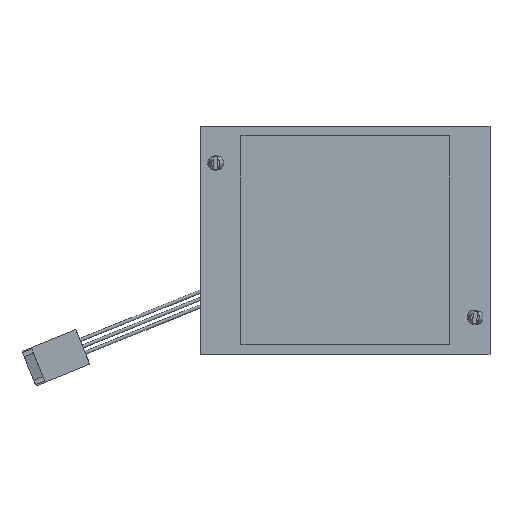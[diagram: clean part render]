
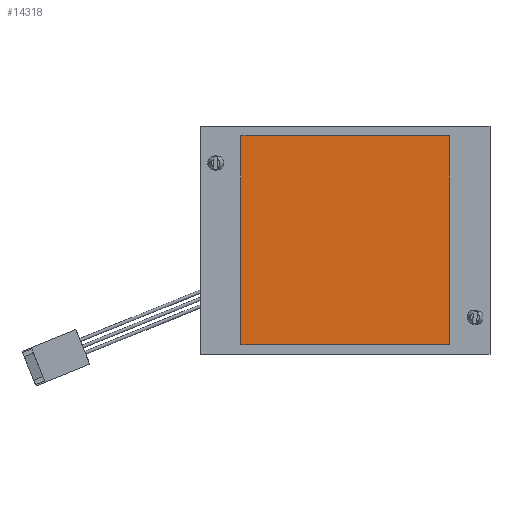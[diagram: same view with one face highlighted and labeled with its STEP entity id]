
A CAD part, front view. The second image highlights one B-rep face of the part: STEP entity #14318.
In plain terms, the highlighted planar face has unit normal (0, -1, 0).
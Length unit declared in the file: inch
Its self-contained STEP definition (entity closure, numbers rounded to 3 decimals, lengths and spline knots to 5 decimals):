
#4821 = LINE ( 'NONE', #5419, #5708 ) ;
#5182 = FACE_OUTER_BOUND ( 'NONE', #49362, .T. ) ;
#5419 = CARTESIAN_POINT ( 'NONE',  ( -0.89998, -0.00512, 0.89992 ) ) ;
#5708 = VECTOR ( 'NONE', #9519, 39.37008 ) ;
#8319 = CARTESIAN_POINT ( 'NONE',  ( 0.90002, -0.00512, -0.90008 ) ) ;
#8799 = DIRECTION ( 'NONE',  ( -1., 0., 0. ) ) ;
#9519 = DIRECTION ( 'NONE',  ( 0., 0., 1. ) ) ;
#10815 = PLANE ( 'NONE',  #55708 ) ;
#11358 = VECTOR ( 'NONE', #44211, 39.37008 ) ;
#12111 = EDGE_CURVE ( 'NONE', #20221, #32941, #4821, .T. ) ;
#12402 = ORIENTED_EDGE ( 'NONE', *, *, #12111, .F. ) ;
#14023 = CARTESIAN_POINT ( 'NONE',  ( 0.90002, -0.00512, -0.90008 ) ) ;
#14318 = ADVANCED_FACE ( 'NONE', ( #5182 ), #10815, .F. ) ;
#15786 = DIRECTION ( 'NONE',  ( 0., 0., 1. ) ) ;
#18739 = CARTESIAN_POINT ( 'NONE',  ( -0.89998, -0.00512, -0.90008 ) ) ;
#20221 = VERTEX_POINT ( 'NONE', #18739 ) ;
#21793 = ORIENTED_EDGE ( 'NONE', *, *, #60213, .F. ) ;
#25116 = DIRECTION ( 'NONE',  ( 0., 1., 0. ) ) ;
#27553 = CARTESIAN_POINT ( 'NONE',  ( 0.90002, -0.00512, 0.89992 ) ) ;
#28481 = EDGE_CURVE ( 'NONE', #36476, #20221, #51600, .T. ) ;
#28889 = CARTESIAN_POINT ( 'NONE',  ( 0.00002, -0.00512, -0.00008 ) ) ;
#29535 = VERTEX_POINT ( 'NONE', #57848 ) ;
#29617 = ORIENTED_EDGE ( 'NONE', *, *, #28481, .F. ) ;
#31642 = LINE ( 'NONE', #27553, #60684 ) ;
#32941 = VERTEX_POINT ( 'NONE', #53794 ) ;
#36476 = VERTEX_POINT ( 'NONE', #8319 ) ;
#37279 = DIRECTION ( 'NONE',  ( 0., 0., -1. ) ) ;
#38244 = CARTESIAN_POINT ( 'NONE',  ( 0.90002, -0.00512, 0.89992 ) ) ;
#44211 = DIRECTION ( 'NONE',  ( 1., 0., 0. ) ) ;
#44559 = VECTOR ( 'NONE', #8799, 39.37008 ) ;
#49362 = EDGE_LOOP ( 'NONE', ( #12402, #29617, #21793, #52806 ) ) ;
#51600 = LINE ( 'NONE', #14023, #44559 ) ;
#52806 = ORIENTED_EDGE ( 'NONE', *, *, #56041, .F. ) ;
#53794 = CARTESIAN_POINT ( 'NONE',  ( -0.89998, -0.00512, 0.89992 ) ) ;
#55708 = AXIS2_PLACEMENT_3D ( 'NONE', #28889, #25116, #15786 ) ;
#55786 = LINE ( 'NONE', #38244, #11358 ) ;
#56041 = EDGE_CURVE ( 'NONE', #32941, #29535, #55786, .T. ) ;
#57848 = CARTESIAN_POINT ( 'NONE',  ( 0.90002, -0.00512, 0.89992 ) ) ;
#60213 = EDGE_CURVE ( 'NONE', #29535, #36476, #31642, .T. ) ;
#60684 = VECTOR ( 'NONE', #37279, 39.37008 ) ;
